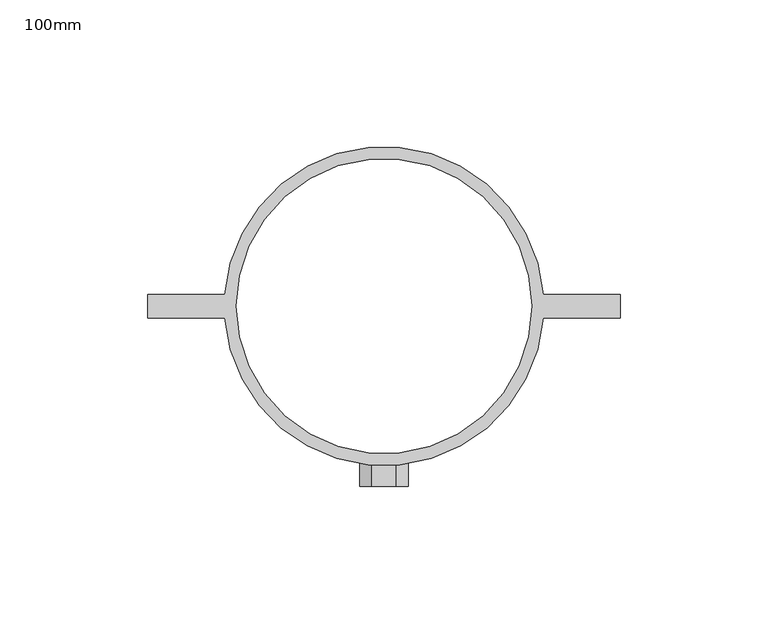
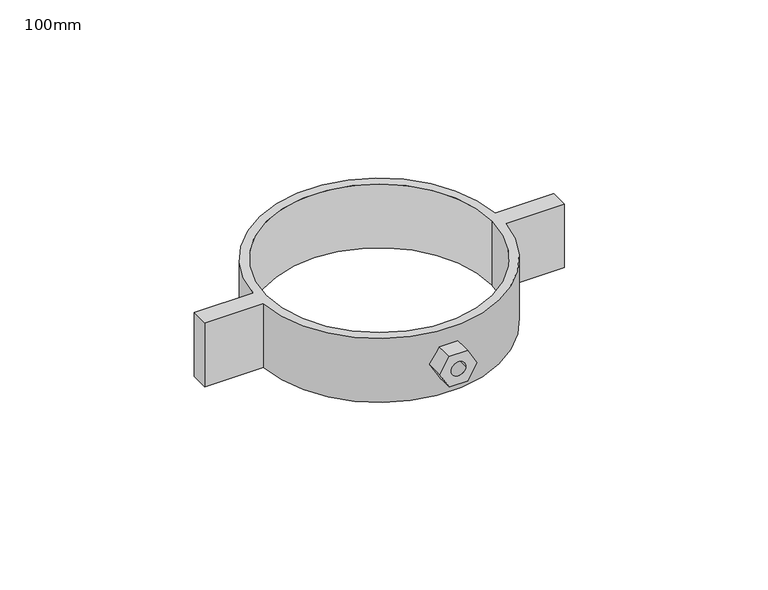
"""IFC4 building model written with IfcOpenShell, lengths in millimetres: pipe fitting geometry, AmancoWavin_AccesóriosdoTubo_QSSuporteDeslizanteVertical : 100mm."""

import ifcopenshell
import ifcopenshell.guid

model = None  # the IFC model being written
_history = None  # IfcOwnerHistory: only IFC2X3 demands one
_inside = {}  # id of a spatial element -> (the spatial element, [elements in it])
_under = {}  # id of a project, library or spatial element -> (it, [spatial elements below it])
_declared = {}  # id of a project -> (the project, [libraries it declares])
_typed = {}  # id of a type object -> (the type object, [elements of that type])
_made_of = {}  # id of a material, layer set ... -> (it, [elements and type objects made of it])


def new_model(schema):
    """Start an empty IFC model of exactly this schema.

    Asked for "IFC4X3", IfcOpenShell would pick the latest addendum, in which some entities
    have other attributes; the version numbers below select the first issue.
    IFC2X3 requires an IfcOwnerHistory on every rooted entity: one is made here for all.
    """
    global model, _history
    if schema == "IFC4X3":
        model = ifcopenshell.file(schema_version=(4, 3, 0, 0))
    else:
        model = ifcopenshell.file(schema=schema)
    _inside.clear()
    _under.clear()
    _declared.clear()
    _typed.clear()
    _made_of.clear()
    _history = None
    if model.schema == "IFC2X3":
        org = make("IfcOrganization", Name="unknown")
        user = make(
            "IfcPersonAndOrganization",
            ThePerson=make("IfcPerson", FamilyName="unknown"),
            TheOrganization=org,
        )
        app = make(
            "IfcApplication",
            ApplicationDeveloper=org,
            Version="unknown",
            ApplicationFullName="unknown",
            ApplicationIdentifier="unknown",
        )
        _history = make(
            "IfcOwnerHistory",
            OwningUser=user,
            OwningApplication=app,
            ChangeAction="ADDED",
            CreationDate=0,
        )
    return model


def make(cls, **values):
    """One entity of the class cls with the attributes given. An attribute that is None is left unset."""
    return model.create_entity(
        cls, **{name: value for name, value in values.items() if value is not None}
    )


def rooted(cls, **values):
    """An entity with a GlobalId (a new one), such as an element, a storey or a relation."""
    return make(cls, GlobalId=ifcopenshell.guid.new(), OwnerHistory=_history, **values)


def si_unit(unit_type, name, prefix=None):
    """IfcSIUnit, for example si_unit("LENGTHUNIT", "METRE", prefix="MILLI")."""
    return make("IfcSIUnit", UnitType=unit_type, Prefix=prefix, Name=name)


def assignment(units):
    """IfcUnitAssignment: the units of a project."""
    return None if units is None else make("IfcUnitAssignment", Units=units)


def point(xyz):
    """IfcCartesianPoint."""
    return None if xyz is None else make("IfcCartesianPoint", Coordinates=xyz)


def direction(xyz):
    """IfcDirection."""
    return None if xyz is None else make("IfcDirection", DirectionRatios=xyz)


def frame(location, z_axis=None, x_axis=None):
    """IfcAxis2Placement3D, a coordinate frame: its origin and axes. An axis left out is left unset."""
    return make(
        "IfcAxis2Placement3D",
        Location=point(location),
        Axis=direction(z_axis),
        RefDirection=direction(x_axis),
    )


def frame_2d(location, x_axis=None):
    """IfcAxis2Placement2D, a coordinate frame in the plane: its origin and x axis."""
    return make(
        "IfcAxis2Placement2D", Location=point(location), RefDirection=direction(x_axis)
    )


def origin():
    """The frame at (0, 0, 0) with its axes left unset."""
    return frame((0.0, 0.0, 0.0))


def origin_2d():
    """The frame at (0, 0) in the plane with its x axis left unset."""
    return frame_2d((0.0, 0.0))


def place(relative_to, where):
    """IfcLocalPlacement: puts the frame where relative to a parent placement (None: the world)."""
    return make(
        "IfcLocalPlacement", PlacementRelTo=relative_to, RelativePlacement=where
    )


def context(
    kind, dimensions, precision=None, world=None, true_north=None, identifier=None
):
    """IfcGeometricRepresentationContext, for example the 3D "Model" context."""
    return make(
        "IfcGeometricRepresentationContext",
        ContextIdentifier=identifier,
        ContextType=kind,
        CoordinateSpaceDimension=dimensions,
        Precision=precision,
        WorldCoordinateSystem=world,
        TrueNorth=true_north,
    )


def project(units=None, contexts=None):
    """IfcProject with its units and contexts."""
    return rooted(
        "IfcProject",
        Name="project",
        RepresentationContexts=contexts,
        UnitsInContext=assignment(units),
    )


def spatial(cls, under=None, at=None, **own):
    """A site, building, storey or space (cls), placed at a placement, below another one or the project."""
    s = rooted(cls, ObjectPlacement=at, **own)
    if under is not None:
        _under.setdefault(under.id(), (under, []))[1].append(s)
    return s


def polyline(points):
    """IfcPolyline through the points."""
    return make("IfcPolyline", Points=[point(p) for p in points])


def circle_curve(where, radius):
    """IfcCircle in the frame where."""
    return make("IfcCircle", Position=where, Radius=radius)


def trimmed(basis, trim1, trim2, sense, master):
    """IfcTrimmedCurve: the piece of a basis curve between two trims."""
    return make(
        "IfcTrimmedCurve",
        BasisCurve=basis,
        Trim1=trim1,
        Trim2=trim2,
        SenseAgreement=sense,
        MasterRepresentation=master,
    )


def segment(curve, same_sense, transition):
    """IfcCompositeCurveSegment."""
    return make(
        "IfcCompositeCurveSegment",
        Transition=transition,
        SameSense=same_sense,
        ParentCurve=curve,
    )


def composite_curve(segments, self_intersect=None):
    """IfcCompositeCurve: segments joined end to end."""
    return make("IfcCompositeCurve", Segments=segments, SelfIntersect=self_intersect)


def outline(outer, holes=None, kind="AREA"):
    """IfcArbitraryClosedProfileDef: a profile drawn as a closed curve; with holes, ...WithVoids."""
    if holes is None:
        return make("IfcArbitraryClosedProfileDef", ProfileType=kind, OuterCurve=outer)
    return make(
        "IfcArbitraryProfileDefWithVoids",
        ProfileType=kind,
        OuterCurve=outer,
        InnerCurves=holes,
    )


def extrude(swept, where, along, depth):
    """IfcExtrudedAreaSolid: the profile swept, set in the frame where, extruded along a direction by depth."""
    return make(
        "IfcExtrudedAreaSolid",
        SweptArea=swept,
        Position=where,
        ExtrudedDirection=direction(along),
        Depth=depth,
    )


def shape(context_of_items, identifier, shape_type, items):
    """IfcShapeRepresentation: the items that make up one representation, for example the "Body"."""
    return make(
        "IfcShapeRepresentation",
        ContextOfItems=context_of_items,
        RepresentationIdentifier=identifier,
        RepresentationType=shape_type,
        Items=items,
    )


def source(mapping_origin, context_of_items, identifier, shape_type, items):
    """IfcRepresentationMap: a shape defined once, which mapped items show again and again."""
    return make(
        "IfcRepresentationMap",
        MappingOrigin=mapping_origin,
        MappedRepresentation=shape(context_of_items, identifier, shape_type, items),
    )


def transform(
    local_origin,
    x_axis=None,
    y_axis=None,
    z_axis=None,
    scale=None,
    scale2=None,
    scale3=None,
    uniform=True,
):
    """IfcCartesianTransformationOperator3D, or its non-uniform kind. x_axis, y_axis, z_axis: its Axis1, 2, 3."""
    if uniform:
        return make(
            "IfcCartesianTransformationOperator3D",
            Axis1=direction(x_axis),
            Axis2=direction(y_axis),
            LocalOrigin=point(local_origin),
            Scale=scale,
            Axis3=direction(z_axis),
        )
    return make(
        "IfcCartesianTransformationOperator3DnonUniform",
        Axis1=direction(x_axis),
        Axis2=direction(y_axis),
        LocalOrigin=point(local_origin),
        Scale=scale,
        Axis3=direction(z_axis),
        Scale2=scale2,
        Scale3=scale3,
    )


def mapped(mapping_source, mapping_target):
    """IfcMappedItem: shows the shape of a source again, moved by a transform."""
    return make(
        "IfcMappedItem", MappingSource=mapping_source, MappingTarget=mapping_target
    )


def made_of(thing, what):
    """Note that an element or type object is made of a material, layer set ...; save() writes the relation."""
    if what is not None:
        _made_of.setdefault(what.id(), (what, []))[1].append(thing)
    return thing


def element(
    cls,
    number,
    at=None,
    inside=None,
    cuts=None,
    type_object=None,
    material=None,
    context=None,
    identifier="Body",
    shape_type=None,
    held_by="IfcProductDefinitionShape",
    body=None,
    shapes=None,
    **own,
):
    """One element of the class cls, such as IfcWall. Its Tag is "e" and its number.

    at: its placement. inside: the storey or other place that contains it. cuts: it is an
    opening in that element (IfcRelVoidsElement). A single representation is given by context,
    identifier, shape_type and body (its items); several are given by shapes. held_by: the class
    of the entity that holds the representations. save() writes the other relations.
    """
    e = rooted(cls, Tag="e%d" % number, ObjectPlacement=at, **own)
    if body is not None:
        shapes = [shape(context, identifier, shape_type, body)]
    if shapes is not None:
        e.Representation = make(held_by, Representations=shapes)
    if inside is not None:
        _inside.setdefault(inside.id(), (inside, []))[1].append(e)
    if cuts is not None:
        rooted(
            "IfcRelVoidsElement", RelatingBuildingElement=cuts, RelatedOpeningElement=e
        )
    if type_object is not None:
        _typed.setdefault(type_object.id(), (type_object, []))[1].append(e)
    return made_of(e, material)


def aggregate(whole, parts):
    """IfcRelAggregates: a whole, such as a stair, and the parts it consists of."""
    return rooted("IfcRelAggregates", RelatingObject=whole, RelatedObjects=parts)


def save(model, path):
    """Write the relations noted so far, then the file.

    IfcRelAggregates (storeys below a building ...), IfcRelContainedInSpatialStructure (elements
    in a storey), IfcRelDefinesByType, IfcRelAssociatesMaterial and IfcRelDeclares: one each for
    every whole, place, type object, material and project.
    """
    for whole, parts in _under.values():
        aggregate(whole, parts)
    for where, things in _inside.values():
        rooted(
            "IfcRelContainedInSpatialStructure",
            RelatedElements=things,
            RelatingStructure=where,
        )
    for kind, things in _typed.values():
        rooted("IfcRelDefinesByType", RelatedObjects=things, RelatingType=kind)
    for what, things in _made_of.values():
        rooted("IfcRelAssociatesMaterial", RelatedObjects=things, RelatingMaterial=what)
    for by, libraries in _declared.values():
        rooted("IfcRelDeclares", RelatingContext=by, RelatedDefinitions=libraries)
    model.write(path)


def pipe_fitting_100mm_ce98358c(model_context):
    return source(origin(), model_context, "Body", "SweptSolid", [
        extrude(outline(polyline([(0.0, -8.2561088), (-7.15, -4.1280544), (-7.15, 4.1280544), (0.0, 8.2561088), (7.15, 4.1280544), (7.15, -4.1280544), (0.0, -8.2561088)]), holes=[composite_curve([segment(trimmed(circle_curve(origin_2d(), 3.25), [point((0.0, -3.25))], [point((0.0, 3.25))], True, "CARTESIAN"), True, "CONTINUOUS"), segment(trimmed(circle_curve(origin_2d(), 3.25), [point((0.0, 3.25))], [point((0.0, -3.25))], True, "CARTESIAN"), True, "CONTINUOUS")], self_intersect=False)]), frame((0.0, -61.0, 0.0), z_axis=(0.0, 1.0, 0.0), x_axis=(0.0, 0.0, 1.0)), (0.0, 0.0, 1.0), 11.0),
        extrude(outline(composite_curve([segment(trimmed(circle_curve(origin_2d(), 54.0), [point((53.8516481, -4.0))], [point((-53.8516481, -4.0))], False, "CARTESIAN"), True, "CONTINUOUS"), segment(polyline([(-53.8516481, -4.0), (-80.0, -4.0), (-80.0, 4.0), (-53.8516481, 4.0)]), True, "CONTINUOUS"), segment(trimmed(circle_curve(origin_2d(), 54.0), [point((-53.8516481, 4.0))], [point((53.8516481, 4.0))], False, "CARTESIAN"), True, "CONTINUOUS"), segment(polyline([(53.8516481, 4.0), (80.0, 4.0), (80.0, -4.0), (53.8516481, -4.0)]), True, "CONTINUOUS")], self_intersect=False), holes=[composite_curve([segment(trimmed(circle_curve(origin_2d(), 50.0), [point((-50.0, 0.0))], [point((50.0, 0.0))], True, "CARTESIAN"), True, "CONTINUOUS"), segment(trimmed(circle_curve(origin_2d(), 50.0), [point((50.0, 0.0))], [point((-50.0, 0.0))], True, "CARTESIAN"), True, "CONTINUOUS")], self_intersect=False)]), frame((0.0, 0.0, -15.0), z_axis=(0.0, 0.0, 1.0), x_axis=(1.0, 0.0, 0.0)), (0.0, 0.0, 1.0), 30.0),
    ])


if __name__ == "__main__":
    model = new_model("IFC4")
    model_context = context("Model", 3, world=origin())
    ifc_project = project(units=[si_unit("LENGTHUNIT", "METRE", prefix="MILLI")], contexts=[model_context])
    site = spatial("IfcSite", under=ifc_project)
    building = spatial("IfcBuilding", under=site)
    placement = place(None, origin())
    pipe_fitting_100mm_shape = pipe_fitting_100mm_ce98358c(model_context)
    element("IfcPipeFitting", 1, ObjectType="AmancoWavin_AccesóriosdoTubo_QSSuporteDeslizanteVertical : 100mm", at=placement, inside=building, context=model_context, shape_type="MappedRepresentation", body=[
        mapped(pipe_fitting_100mm_shape, transform((0.0, 0.0, 0.0), x_axis=(1.0, 0.0, 0.0), y_axis=(0.0, 1.0, 0.0), z_axis=(0.0, 0.0, 1.0))),
    ])
    save(model, "model.ifc")
